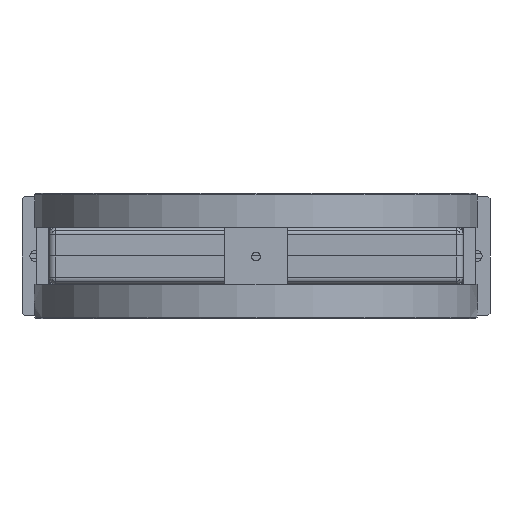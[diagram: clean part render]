
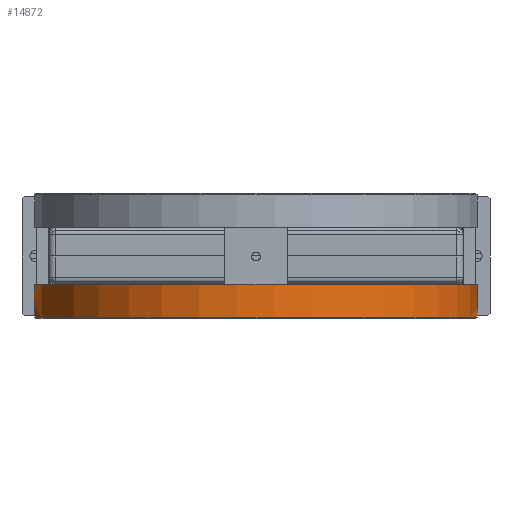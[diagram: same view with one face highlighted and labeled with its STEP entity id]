
A CAD part, front view. The second image highlights one B-rep face of the part: STEP entity #14872.
In plain terms, the highlighted cylindrical face has radius 212.425 mm (diameter 424.85 mm), a full revolution.
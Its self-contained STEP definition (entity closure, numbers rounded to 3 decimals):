
#6414=ELLIPSE('',#39786,424.85,212.425);
#6415=ELLIPSE('',#39787,424.85,212.425);
#6416=ELLIPSE('',#39791,424.85,212.425);
#6417=ELLIPSE('',#39792,424.85,212.425);
#7595=LINE('',#54384,#9636);
#7596=LINE('',#54391,#9637);
#7597=LINE('',#54398,#9638);
#7598=LINE('',#54405,#9639);
#9636=VECTOR('',#43823,1.);
#9637=VECTOR('',#43828,1.);
#9638=VECTOR('',#43835,1.);
#9639=VECTOR('',#43840,1.);
#14872=ADVANCED_FACE('',(#17362,#17363,#17364,#17365),#16674,.T.);
#16674=CYLINDRICAL_SURFACE('',#39794,212.425);
#17362=FACE_BOUND('',#19190,.T.);
#17363=FACE_BOUND('',#19191,.T.);
#17364=FACE_BOUND('',#19192,.T.);
#17365=FACE_BOUND('',#19193,.T.);
#19190=EDGE_LOOP('',(#22981,#22982,#22983,#22984,#22985));
#19191=EDGE_LOOP('',(#22986));
#19192=EDGE_LOOP('',(#22987));
#19193=EDGE_LOOP('',(#22988,#22989,#22990,#22991,#22992));
#22981=ORIENTED_EDGE('',*,*,#34271,.T.);
#22982=ORIENTED_EDGE('',*,*,#34272,.T.);
#22983=ORIENTED_EDGE('',*,*,#34273,.T.);
#22984=ORIENTED_EDGE('',*,*,#34274,.T.);
#22985=ORIENTED_EDGE('',*,*,#34275,.T.);
#22986=ORIENTED_EDGE('',*,*,#34276,.T.);
#22987=ORIENTED_EDGE('',*,*,#34277,.T.);
#22988=ORIENTED_EDGE('',*,*,#34278,.T.);
#22989=ORIENTED_EDGE('',*,*,#34279,.T.);
#22990=ORIENTED_EDGE('',*,*,#34280,.T.);
#22991=ORIENTED_EDGE('',*,*,#34281,.T.);
#22992=ORIENTED_EDGE('',*,*,#34282,.T.);
#30891=VERTEX_POINT('',#54385);
#30892=VERTEX_POINT('',#54386);
#30893=VERTEX_POINT('',#54388);
#30894=VERTEX_POINT('',#54390);
#30895=VERTEX_POINT('',#54392);
#30896=VERTEX_POINT('',#54395);
#30897=VERTEX_POINT('',#54397);
#30898=VERTEX_POINT('',#54399);
#30899=VERTEX_POINT('',#54400);
#30900=VERTEX_POINT('',#54402);
#30901=VERTEX_POINT('',#54404);
#30902=VERTEX_POINT('',#54406);
#34271=EDGE_CURVE('',#30891,#30892,#7595,.T.);
#34272=EDGE_CURVE('',#30892,#30893,#6414,.T.);
#34273=EDGE_CURVE('',#30893,#30894,#6415,.T.);
#34274=EDGE_CURVE('',#30894,#30895,#7596,.T.);
#34275=EDGE_CURVE('',#30895,#30891,#38152,.T.);
#34276=EDGE_CURVE('',#30896,#30896,#38153,.T.);
#34277=EDGE_CURVE('',#30897,#30897,#38154,.T.);
#34278=EDGE_CURVE('',#30898,#30899,#7597,.T.);
#34279=EDGE_CURVE('',#30899,#30900,#6416,.T.);
#34280=EDGE_CURVE('',#30900,#30901,#6417,.T.);
#34281=EDGE_CURVE('',#30901,#30902,#7598,.T.);
#34282=EDGE_CURVE('',#30902,#30898,#38155,.T.);
#38152=CIRCLE('',#39788,212.425);
#38153=CIRCLE('',#39789,212.425);
#38154=CIRCLE('',#39790,212.425);
#38155=CIRCLE('',#39793,212.425);
#39786=AXIS2_PLACEMENT_3D('',#54387,#43824,#43825);
#39787=AXIS2_PLACEMENT_3D('',#54389,#43826,#43827);
#39788=AXIS2_PLACEMENT_3D('',#54393,#43829,#43830);
#39789=AXIS2_PLACEMENT_3D('',#54394,#43831,#43832);
#39790=AXIS2_PLACEMENT_3D('',#54396,#43833,#43834);
#39791=AXIS2_PLACEMENT_3D('',#54401,#43836,#43837);
#39792=AXIS2_PLACEMENT_3D('',#54403,#43838,#43839);
#39793=AXIS2_PLACEMENT_3D('',#54407,#43841,#43842);
#39794=AXIS2_PLACEMENT_3D('',#54408,#43843,#43844);
#43823=DIRECTION('',(0.,0.,-1.));
#43824=DIRECTION('',(0.,0.866,-0.5));
#43825=DIRECTION('',(0.,0.5,0.866));
#43826=DIRECTION('',(0.,-0.866,-0.5));
#43827=DIRECTION('',(0.,-0.5,0.866));
#43828=DIRECTION('',(0.,0.,1.));
#43829=DIRECTION('',(0.,0.,1.));
#43830=DIRECTION('',(0.,1.,0.));
#43831=DIRECTION('',(0.,0.,-1.));
#43832=DIRECTION('',(0.966,0.259,0.));
#43833=DIRECTION('',(0.,0.,1.));
#43834=DIRECTION('',(0.966,0.259,0.));
#43835=DIRECTION('',(0.,0.,-1.));
#43836=DIRECTION('',(0.,-0.866,-0.5));
#43837=DIRECTION('',(0.,-0.5,0.866));
#43838=DIRECTION('',(0.,0.866,-0.5));
#43839=DIRECTION('',(0.,0.5,0.866));
#43840=DIRECTION('',(0.,0.,1.));
#43841=DIRECTION('',(0.,0.,1.));
#43842=DIRECTION('',(0.,1.,0.));
#43843=DIRECTION('',(0.,0.,1.));
#43844=DIRECTION('',(0.966,0.259,0.));
#54384=CARTESIAN_POINT('',(212.4,-696.741,59.85));
#54385=CARTESIAN_POINT('',(212.4,-696.741,50.85));
#54386=CARTESIAN_POINT('',(212.4,-696.741,50.495));
#54387=CARTESIAN_POINT('',(0.,-700.,44.85));
#54388=CARTESIAN_POINT('',(212.425,-700.,44.85));
#54389=CARTESIAN_POINT('',(0.,-700.,44.85));
#54390=CARTESIAN_POINT('',(212.4,-703.259,50.495));
#54391=CARTESIAN_POINT('',(212.4,-703.259,59.85));
#54392=CARTESIAN_POINT('',(212.4,-703.259,50.85));
#54393=CARTESIAN_POINT('',(0.,-700.,50.85));
#54394=CARTESIAN_POINT('',(0.,-700.,58.35));
#54395=CARTESIAN_POINT('',(205.187,-645.02,58.35));
#54396=CARTESIAN_POINT('',(0.,-700.,27.05));
#54397=CARTESIAN_POINT('',(205.187,-645.02,27.05));
#54398=CARTESIAN_POINT('',(-212.4,-703.259,59.85));
#54399=CARTESIAN_POINT('',(-212.4,-703.259,50.85));
#54400=CARTESIAN_POINT('',(-212.4,-703.259,50.495));
#54401=CARTESIAN_POINT('',(0.,-700.,44.85));
#54402=CARTESIAN_POINT('',(-212.425,-700.,44.85));
#54403=CARTESIAN_POINT('',(0.,-700.,44.85));
#54404=CARTESIAN_POINT('',(-212.4,-696.741,50.495));
#54405=CARTESIAN_POINT('',(-212.4,-696.741,59.85));
#54406=CARTESIAN_POINT('',(-212.4,-696.741,50.85));
#54407=CARTESIAN_POINT('',(0.,-700.,50.85));
#54408=CARTESIAN_POINT('',(0.,-700.,59.85));
